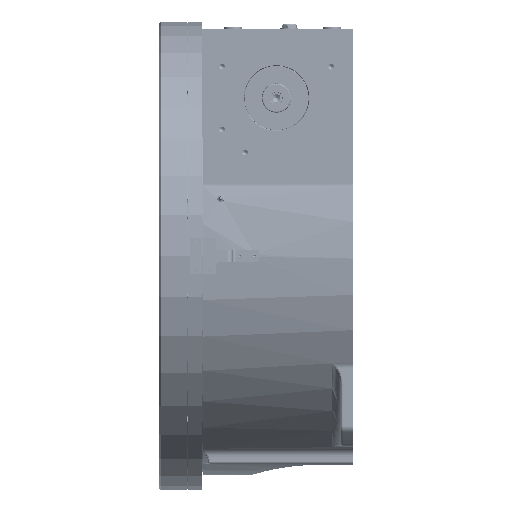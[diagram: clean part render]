
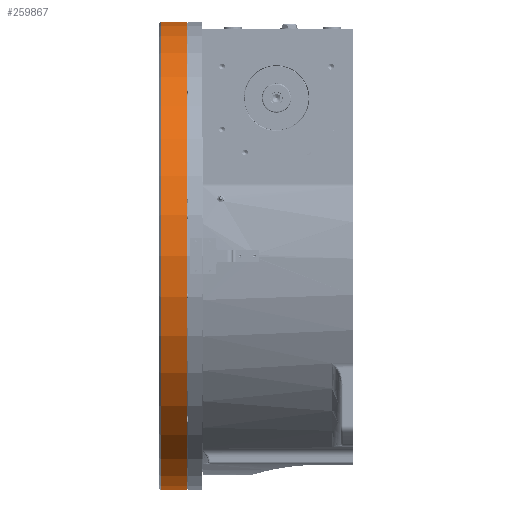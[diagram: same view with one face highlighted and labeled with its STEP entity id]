
A CAD part, left-side view. The second image highlights one B-rep face of the part: STEP entity #259867.
In plain terms, the highlighted cylindrical face has radius 400 mm (diameter 800 mm), a partial arc.
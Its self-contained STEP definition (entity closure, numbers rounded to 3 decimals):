
#259812=CARTESIAN_POINT('Axis2P3D Location',(0.,293.275,0.)) ;
#259817=CARTESIAN_POINT('Line Origine',(0.,293.275,400.)) ;
#259821=CARTESIAN_POINT('Vertex',(0.,282.55,400.)) ;
#259823=CARTESIAN_POINT('Vertex',(0.,328.,400.)) ;
#259826=CARTESIAN_POINT('Axis2P3D Location',(0.,328.,0.)) ;
#259830=CARTESIAN_POINT('Vertex',(-400.,328.,0.)) ;
#259833=CARTESIAN_POINT('Axis2P3D Location',(0.,328.,0.)) ;
#259837=CARTESIAN_POINT('Vertex',(0.,328.,-400.)) ;
#259840=CARTESIAN_POINT('Line Origine',(0.,293.275,-400.)) ;
#259844=CARTESIAN_POINT('Vertex',(0.,282.55,-400.)) ;
#259847=CARTESIAN_POINT('Axis2P3D Location',(0.,282.55,0.)) ;
#259851=CARTESIAN_POINT('Vertex',(-400.,282.55,0.)) ;
#259854=CARTESIAN_POINT('Axis2P3D Location',(0.,282.55,0.)) ;
#259813=DIRECTION('Axis2P3D Direction',(0.,1.,0.)) ;
#259814=DIRECTION('Axis2P3D XDirection',(0.,0.,-1.)) ;
#259818=DIRECTION('Vector Direction',(0.,1.,0.)) ;
#259827=DIRECTION('Axis2P3D Direction',(0.,1.,0.)) ;
#259834=DIRECTION('Axis2P3D Direction',(0.,1.,0.)) ;
#259841=DIRECTION('Vector Direction',(0.,1.,0.)) ;
#259848=DIRECTION('Axis2P3D Direction',(0.,1.,0.)) ;
#259855=DIRECTION('Axis2P3D Direction',(0.,1.,0.)) ;
#259815=AXIS2_PLACEMENT_3D('Cylinder Axis2P3D',#259812,#259813,#259814) ;
#259828=AXIS2_PLACEMENT_3D('Circle Axis2P3D',#259826,#259827,$) ;
#259835=AXIS2_PLACEMENT_3D('Circle Axis2P3D',#259833,#259834,$) ;
#259849=AXIS2_PLACEMENT_3D('Circle Axis2P3D',#259847,#259848,$) ;
#259856=AXIS2_PLACEMENT_3D('Circle Axis2P3D',#259854,#259855,$) ;
#259860=ORIENTED_EDGE('',*,*,#259825,.T.) ;
#259861=ORIENTED_EDGE('',*,*,#259832,.T.) ;
#259862=ORIENTED_EDGE('',*,*,#259839,.T.) ;
#259863=ORIENTED_EDGE('',*,*,#259846,.T.) ;
#259864=ORIENTED_EDGE('',*,*,#259853,.T.) ;
#259865=ORIENTED_EDGE('',*,*,#259858,.T.) ;
#259819=VECTOR('Line Direction',#259818,1.) ;
#259842=VECTOR('Line Direction',#259841,1.) ;
#259867=ADVANCED_FACE('',(#259866),#259816,.T.) ;
#259829=CIRCLE('generated circle',#259828,400.) ;
#259836=CIRCLE('generated circle',#259835,400.) ;
#259850=CIRCLE('generated circle',#259849,400.) ;
#259857=CIRCLE('generated circle',#259856,400.) ;
#259816=CYLINDRICAL_SURFACE('generated cylinder',#259815,400.) ;
#259825=EDGE_CURVE('',#259822,#259824,#259820,.T.) ;
#259832=EDGE_CURVE('',#259824,#259831,#259829,.F.) ;
#259839=EDGE_CURVE('',#259831,#259838,#259836,.F.) ;
#259846=EDGE_CURVE('',#259838,#259845,#259843,.F.) ;
#259853=EDGE_CURVE('',#259845,#259852,#259850,.T.) ;
#259858=EDGE_CURVE('',#259852,#259822,#259857,.T.) ;
#259859=EDGE_LOOP('',(#259860,#259861,#259862,#259863,#259864,#259865)) ;
#259866=FACE_OUTER_BOUND('',#259859,.T.) ;
#259820=LINE('Line',#259817,#259819) ;
#259843=LINE('Line',#259840,#259842) ;
#259822=VERTEX_POINT('',#259821) ;
#259824=VERTEX_POINT('',#259823) ;
#259831=VERTEX_POINT('',#259830) ;
#259838=VERTEX_POINT('',#259837) ;
#259845=VERTEX_POINT('',#259844) ;
#259852=VERTEX_POINT('',#259851) ;
